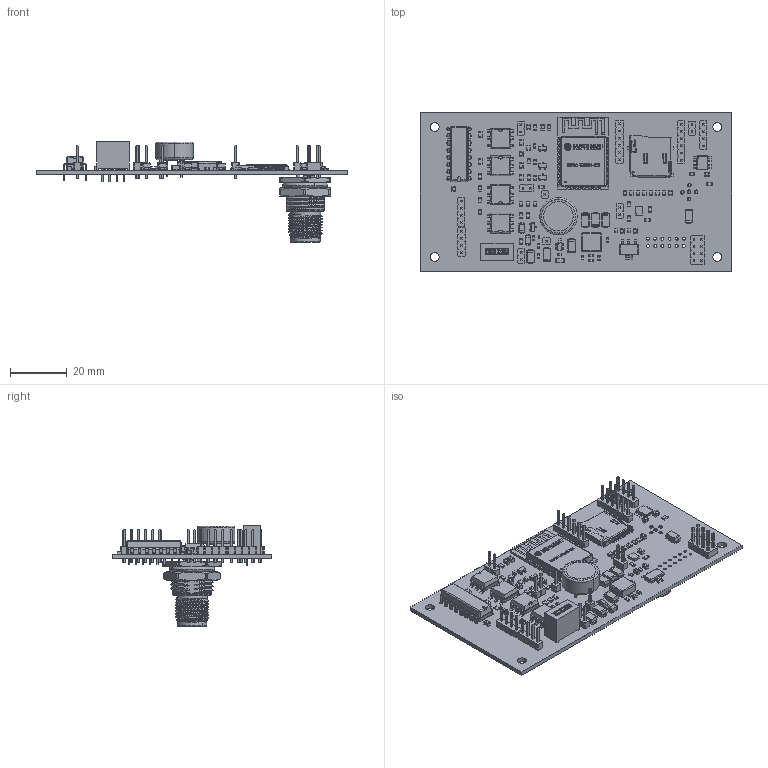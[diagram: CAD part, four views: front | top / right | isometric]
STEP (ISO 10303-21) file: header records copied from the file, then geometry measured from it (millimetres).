
FILE_DESCRIPTION(('KiCad electronic assembly'),'2;1');
FILE_NAME('WILB_V2.5.1_251001.step','2025-11-21T13:00:27',('Pcbnew'),( 'Kicad'),'Open CASCADE STEP processor 7.9','KiCad to STEP converter' ,'Unknown');
FILE_SCHEMA(('AUTOMOTIVE_DESIGN { 1 0 10303 214 1 1 1 1 }'));
Length unit declared in the file: millimetre
Products named in the file (46): WILB_V2.5.1_251001 2; R_0805_2012Metric; R_0603_1608Metric; C_0805_2012Metric; PinHeader_1x02_P2.54mm_Vertical; Same_Sky_MSD-4-A; C_0603_1608Metric; D_SMA; N0016A; BODY_N0016A_AF0; LEAD_N0016A_AF1; LEAD_N0016A; LEAD_N0016A_AF3; LEAD_N0016A_AF5; LEAD_N0016A_AF0; LEAD_N0016A_AF2; LEAD_N0016A_AF4; PinHeader_1x04_P2.54mm_Vertical; SOT-23-3; PinHeader_2x04_P2.54mm_Vertical; SOT-23-6; User Library-ESP32-WROOM-32E-1; LED_0603_1608Metric_Castellated; PinHeader_1x01_P2.54mm_Vertical; KR-5R5C474-R; PinHeader_1x06_P2.54mm_Vertical; HMC-05PMMS-SF8001; HMC-05PMMS-SF8001_2; D_PowerDI-123; L_Sunlord_MWSA0603S; WILB_V2.5.1_251001 2.56.1; C_0402_1005Metric; QFN_S3TR-C_STM; RFM-0505S; RFM_potting; RFM_pin1(-Vin); RFM_pin2(+Vin); RFM_pin3(-Vout); RFM_case; RFM_pin4(+Vout)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
Assembly tree (127 placements, depth 3):
  WILB_V2.5.1_251001 2
    R_0805_2012Metric  x26
    R_0603_1608Metric  x9
    C_0805_2012Metric  x16
    PinHeader_1x02_P2.54mm_Vertical  x5
    Same_Sky_MSD-4-A
    C_0603_1608Metric  x2
    D_SMA  x7
    N0016A
      BODY_N0016A_AF0
      LEAD_N0016A_AF1
      LEAD_N0016A  x10
      LEAD_N0016A_AF3
      LEAD_N0016A_AF5
      LEAD_N0016A_AF0
      LEAD_N0016A_AF2
      LEAD_N0016A_AF4
    PinHeader_1x04_P2.54mm_Vertical  x3
    SOT-23-3  x4
    PinHeader_2x04_P2.54mm_Vertical
    SOT-23-6
    User Library-ESP32-WROOM-32E-1
    LED_0603_1608Metric_Castellated  x3
    PinHeader_1x01_P2.54mm_Vertical  x2
    KR-5R5C474-R
    PinHeader_1x06_P2.54mm_Vertical  x2
    HMC-05PMMS-SF8001
      HMC-05PMMS-SF8001
      HMC-05PMMS-SF8001_2
    D_PowerDI-123  x2
    L_Sunlord_MWSA0603S
      WILB_V2.5.1_251001 2.56.1
    C_0402_1005Metric  x2
    QFN_S3TR-C_STM
    RFM-0505S
      RFM_potting
      RFM_pin1(-Vin)
      RFM_pin2(+Vin)
      RFM_pin3(-Vout)
      RFM_case
      RFM_pin4(+Vout)
    SMDIP-6_W9.53mm  x4
    C_1206_3216Metric
    SOT-223
    HSOP-8-1EP_3.9x4.9mm_P1.27mm_EP2.41x3.1mm
    WIBL_V2.5.1_251121_PCB
Bounding box: 110 x 56 x 35.5 mm (x, y, z)
Volume: 15781.2 mm3; surface area: 26624.4 mm2
Topology: 143 solids, 152 shells, 8500 faces, 22926 edges, 14857 vertices
Faces by surface type: plane 6230, cylinder 1553, bspline 600, cone 84, torus 21, sphere 12
Full cylindrical faces by diameter (mm): 0.13 x1, 0.6 x4, 0.73 x16, 0.914 x2, 1 x7, 1.016 x56, 3.2 x4
Entity records: 215745 total; most frequent: CARTESIAN_POINT 55757, ORIENTED_EDGE 30761, DIRECTION 26495, EDGE_CURVE 15403, LINE 12353, VECTOR 12353, VERTEX_POINT 10058, AXIS2_PLACEMENT_3D 7071
